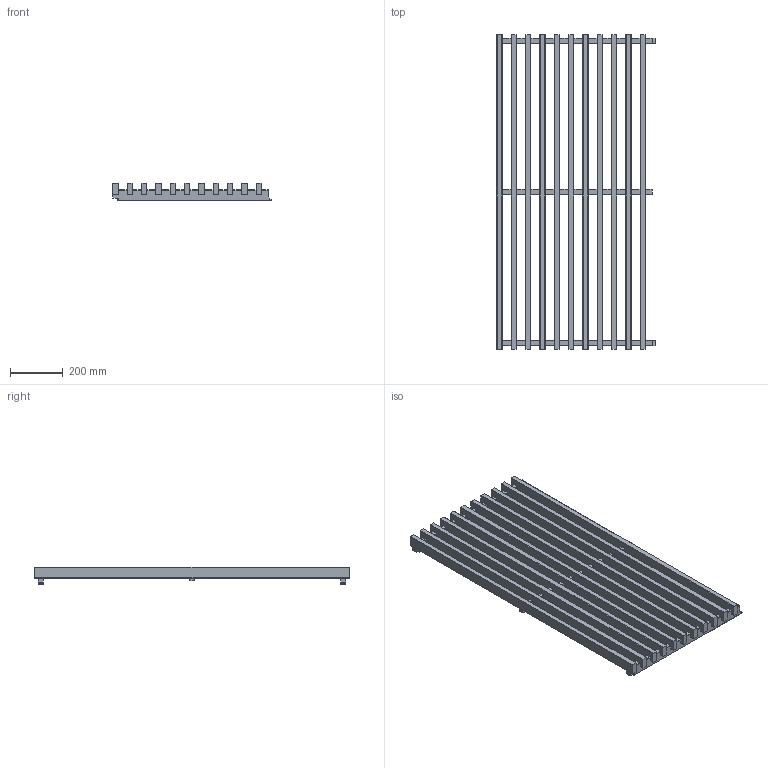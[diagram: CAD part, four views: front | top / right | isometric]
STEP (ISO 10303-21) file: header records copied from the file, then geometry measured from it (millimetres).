
FILE_DESCRIPTION (( 'STEP AP214' ), '1' );
FILE_NAME ('Lao 2.4.10.STEP', '2024-05-31T09:06:05', ( 'UTILISATEUR' ), ( '' ), 'SwSTEP 2.0', 'SolidWorks 2021', '' );
FILE_SCHEMA (( 'AUTOMOTIVE_DESIGN' ));
Length unit declared in the file: millimetre
Products named in the file (4): Lame aboutée 20x42x1199mm_1199; Lao 2.4.10; Contrelatte centrale 20x28_2.4.3; Contrelatte 20x42_2.4.3
Assembly tree (14 placements, depth 2):
  Lao 2.4.10
    Contrelatte 20x42_2.4.3  x2
    Lame aboutée 20x42x1199mm_1199  x11
    Contrelatte centrale 20x28_2.4.3
Bounding box: 603 x 1199 x 66 mm (x, y, z)
Volume: 12100590.8 mm3; surface area: 1813058.2 mm2
Topology: 14 solids, 14 shells, 372 faces, 1032 edges, 688 vertices
Faces by surface type: plane 346, cylinder 26
Entity records: 6404 total; most frequent: CARTESIAN_POINT 1127, ORIENTED_EDGE 1092, DIRECTION 1000, EDGE_CURVE 546, VECTOR 494, LINE 494, VERTEX_POINT 364, AXIS2_PLACEMENT_3D 253
